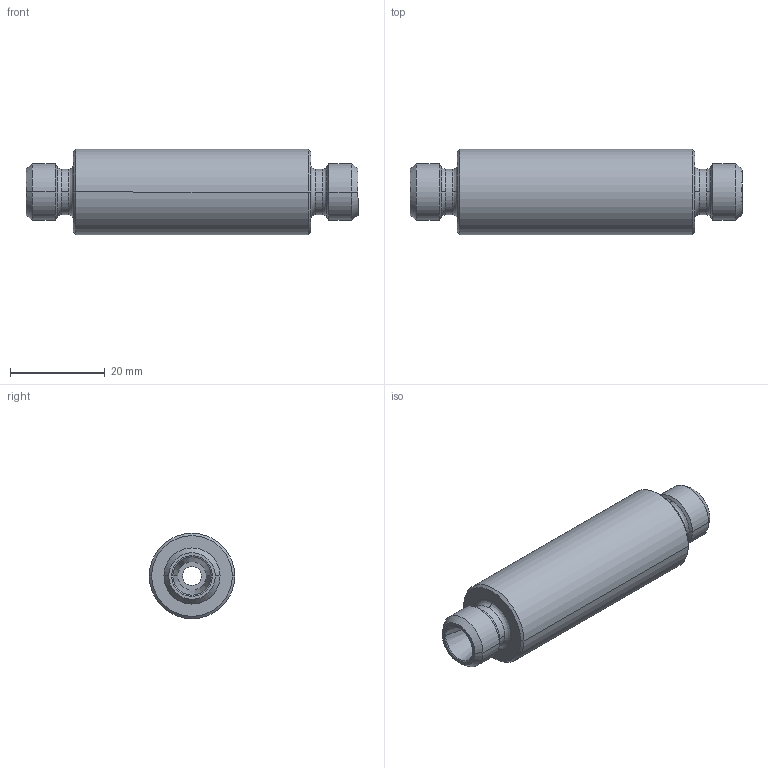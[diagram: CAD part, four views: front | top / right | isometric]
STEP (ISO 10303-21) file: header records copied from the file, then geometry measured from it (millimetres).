
FILE_DESCRIPTION((''),'2;1');
FILE_NAME('105604.stp','2007-10-31T14:15:08',(''),(''),'AutoCAD STEP 2000i','AutoCAD 2000i',', , ');
FILE_SCHEMA(('CONFIG_CONTROL_DESIGN'));
Length unit declared in the file: millimetre
Products named in the file (2): 105604.0; BARRA TONDA#0
Assembly tree (1 placements, depth 2):
  105604.0
    BARRA TONDA#0
Bounding box: 70 x 18 x 18 mm (x, y, z)
Volume: 13399.6 mm3; surface area: 4963.9 mm2
Topology: 1 solids, 1 shells, 50 faces, 120 edges, 76 vertices
Faces by surface type: cone 16, cylinder 16, bspline 8, plane 6, torus 4
Entity records: 1929 total; most frequent: CARTESIAN_POINT 600, DIRECTION 296, ORIENTED_EDGE 240, AXIS2_PLACEMENT_3D 132, EDGE_CURVE 120, CIRCLE 88, VERTEX_POINT 76, EDGE_LOOP 56
